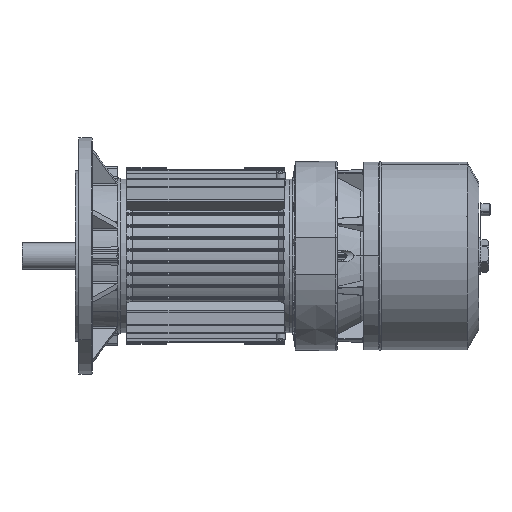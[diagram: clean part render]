
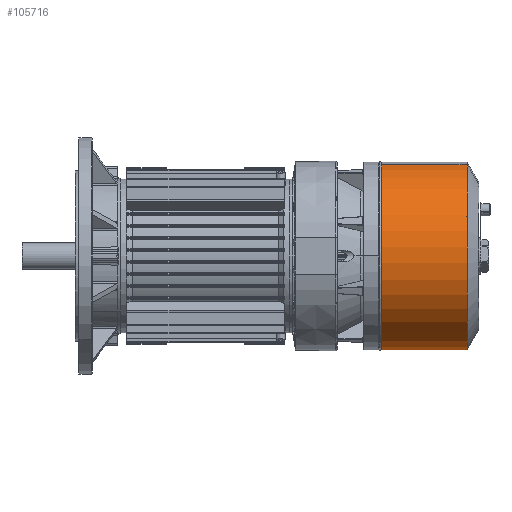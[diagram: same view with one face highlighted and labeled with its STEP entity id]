
A CAD part, front view. The second image highlights one B-rep face of the part: STEP entity #105716.
In plain terms, the highlighted cylindrical face has radius 99.2 mm (diameter 198.4 mm), a partial arc.
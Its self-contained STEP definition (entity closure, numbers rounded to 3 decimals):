
#2374 = DIRECTION ( 'NONE',  ( 0., 0., 1. ) ) ;
#2418 = EDGE_CURVE ( 'NONE', #11305, #114850, #26461, .T. ) ;
#6149 = AXIS2_PLACEMENT_3D ( 'NONE', #167496, #88637, #9682 ) ;
#6810 = CARTESIAN_POINT ( 'NONE',  ( 0., 12.529, 99.2 ) ) ;
#9217 = ORIENTED_EDGE ( 'NONE', *, *, #2418, .F. ) ;
#9682 = DIRECTION ( 'NONE',  ( 0., 0., 1. ) ) ;
#10771 = CIRCLE ( 'NONE', #140220, 99.2 ) ;
#11305 = VERTEX_POINT ( 'NONE', #82394 ) ;
#14301 = DIRECTION ( 'NONE',  ( 0., 1., 0. ) ) ;
#15175 = CARTESIAN_POINT ( 'NONE',  ( 0., 102.5, 0. ) ) ;
#15406 = EDGE_CURVE ( 'NONE', #161902, #120114, #39234, .T. ) ;
#15506 = CARTESIAN_POINT ( 'NONE',  ( 0., 113.98, 0. ) ) ;
#26461 = LINE ( 'NONE', #80076, #96571 ) ;
#27434 = ORIENTED_EDGE ( 'NONE', *, *, #15406, .T. ) ;
#28527 = DIRECTION ( 'NONE',  ( 0., 0., 1. ) ) ;
#31420 = DIRECTION ( 'NONE',  ( 0., 1., 0. ) ) ;
#39234 = LINE ( 'NONE', #110274, #105116 ) ;
#42917 = CIRCLE ( 'NONE', #6149, 99.2 ) ;
#54641 = CYLINDRICAL_SURFACE ( 'NONE', #142219, 99.2 ) ;
#68075 = DIRECTION ( 'NONE',  ( 0., 1., 0. ) ) ;
#80076 = CARTESIAN_POINT ( 'NONE',  ( 0., 113.98, -99.2 ) ) ;
#82394 = CARTESIAN_POINT ( 'NONE',  ( 0., 12.529, -99.2 ) ) ;
#87337 = EDGE_CURVE ( 'NONE', #114850, #120114, #10771, .T. ) ;
#88637 = DIRECTION ( 'NONE',  ( 0., 1., 0. ) ) ;
#94373 = ORIENTED_EDGE ( 'NONE', *, *, #131769, .T. ) ;
#96571 = VECTOR ( 'NONE', #14301, 1000. ) ;
#98413 = ORIENTED_EDGE ( 'NONE', *, *, #87337, .F. ) ;
#105116 = VECTOR ( 'NONE', #31420, 1000. ) ;
#105716 = ADVANCED_FACE ( 'NONE', ( #159645 ), #54641, .T. ) ;
#107381 = DIRECTION ( 'NONE',  ( 0., 1., 0. ) ) ;
#110274 = CARTESIAN_POINT ( 'NONE',  ( 0., 113.98, 99.2 ) ) ;
#111391 = EDGE_LOOP ( 'NONE', ( #9217, #94373, #27434, #98413 ) ) ;
#114850 = VERTEX_POINT ( 'NONE', #124817 ) ;
#120114 = VERTEX_POINT ( 'NONE', #150527 ) ;
#124817 = CARTESIAN_POINT ( 'NONE',  ( 0., 102.5, -99.2 ) ) ;
#131769 = EDGE_CURVE ( 'NONE', #11305, #161902, #42917, .T. ) ;
#140220 = AXIS2_PLACEMENT_3D ( 'NONE', #15175, #107381, #28527 ) ;
#142219 = AXIS2_PLACEMENT_3D ( 'NONE', #15506, #68075, #2374 ) ;
#150527 = CARTESIAN_POINT ( 'NONE',  ( 0., 102.5, 99.2 ) ) ;
#159645 = FACE_OUTER_BOUND ( 'NONE', #111391, .T. ) ;
#161902 = VERTEX_POINT ( 'NONE', #6810 ) ;
#167496 = CARTESIAN_POINT ( 'NONE',  ( 0., 12.529, 0. ) ) ;
